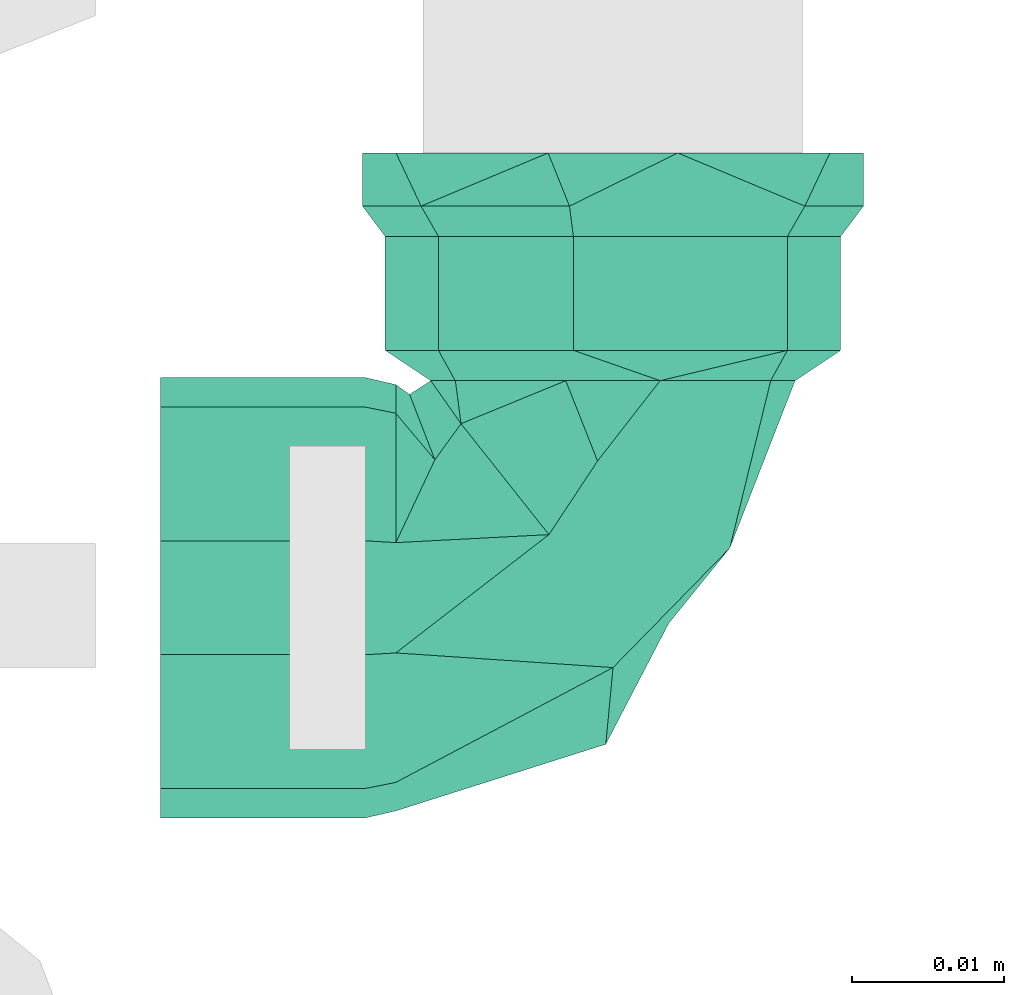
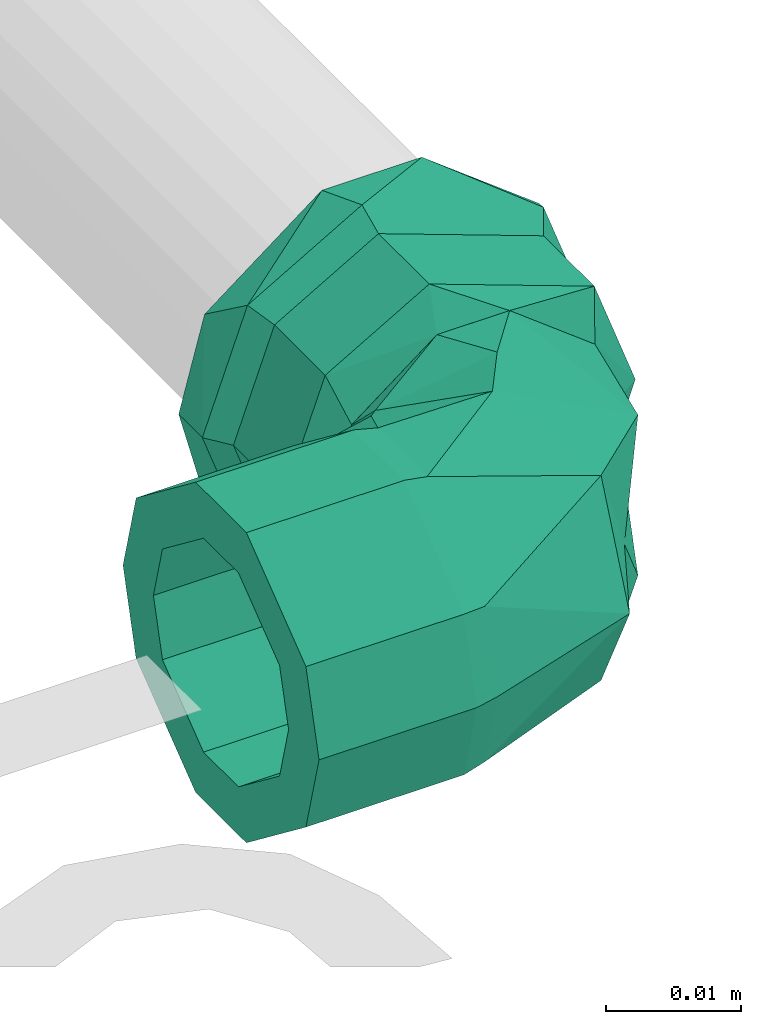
# One storey, part 374 of 589: 1 flow fitting.
"""IFC2X3 building model written with IfcOpenShell, lengths in millimetres."""

from ifc_helpers import new_model, entity, si_unit, converted_unit, derived_unit, direction, frame, origin, place, context, subcontext, project, spatial, faceted_brep, source, transform, mapped, material, type_object, type_shapes, element, save


model = new_model("IFC2X3")

# Units and contexts
model_context = context("Model", 3, precision=0.01, world=origin(), true_north=direction((6.123031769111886e-17, 1.0)))
body_context = subcontext(model_context, "Body", "Model", "MODEL_VIEW")
ifc_project = project(units=[si_unit("LENGTHUNIT", "METRE", prefix="MILLI"), si_unit("AREAUNIT", "SQUARE_METRE"), si_unit("VOLUMEUNIT", "CUBIC_METRE"), converted_unit("PLANEANGLEUNIT", "DEGREE", entity("IfcRatioMeasure", 0.017453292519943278), si_unit("PLANEANGLEUNIT", "RADIAN"), dimensions=[0, 0, 0, 0, 0, 0, 0]), si_unit("MASSUNIT", "GRAM", prefix="KILO"), derived_unit("MASSDENSITYUNIT", [(si_unit("MASSUNIT", "GRAM", prefix="KILO"), 1), (si_unit("LENGTHUNIT", "METRE"), -3)]), derived_unit("IONCONCENTRATIONUNIT", [(si_unit("MASSUNIT", "GRAM", prefix="KILO"), 1), (si_unit("LENGTHUNIT", "METRE"), -3)]), derived_unit("MOMENTOFINERTIAUNIT", [(si_unit("LENGTHUNIT", "METRE"), 4)]), si_unit("TIMEUNIT", "SECOND"), si_unit("FREQUENCYUNIT", "HERTZ"), si_unit("THERMODYNAMICTEMPERATUREUNIT", "DEGREE_CELSIUS"), derived_unit("THERMALTRANSMITTANCEUNIT", [(si_unit("MASSUNIT", "GRAM", prefix="KILO"), 1), (si_unit("THERMODYNAMICTEMPERATUREUNIT", "KELVIN"), -1), (si_unit("TIMEUNIT", "SECOND"), -3)]), derived_unit("THERMALCONDUCTANCEUNIT", [(si_unit("MASSUNIT", "GRAM", prefix="KILO"), 1), (si_unit("THERMODYNAMICTEMPERATUREUNIT", "KELVIN"), -1), (si_unit("TIMEUNIT", "SECOND"), -3), (si_unit("LENGTHUNIT", "METRE"), 1)]), derived_unit("VOLUMETRICFLOWRATEUNIT", [(si_unit("LENGTHUNIT", "METRE"), 3), (si_unit("TIMEUNIT", "SECOND"), -1)]), derived_unit("MASSFLOWRATEUNIT", [(si_unit("MASSUNIT", "GRAM", prefix="KILO"), 1), (si_unit("TIMEUNIT", "SECOND"), -1)]), derived_unit("ROTATIONALFREQUENCYUNIT", [(si_unit("TIMEUNIT", "SECOND"), -1)]), si_unit("ELECTRICCURRENTUNIT", "AMPERE"), si_unit("ELECTRICVOLTAGEUNIT", "VOLT"), si_unit("POWERUNIT", "WATT"), si_unit("FORCEUNIT", "NEWTON", prefix="KILO"), si_unit("ILLUMINANCEUNIT", "LUX"), si_unit("LUMINOUSFLUXUNIT", "LUMEN"), si_unit("LUMINOUSINTENSITYUNIT", "CANDELA"), derived_unit("USERDEFINED", [(si_unit("MASSUNIT", "GRAM", prefix="KILO"), -1), (si_unit("LENGTHUNIT", "METRE"), -2), (si_unit("TIMEUNIT", "SECOND"), 3), (si_unit("LUMINOUSFLUXUNIT", "LUMEN"), 1)]), derived_unit("USERDEFINED", [(si_unit("MASSUNIT", "GRAM", prefix="KILO"), 1), (si_unit("TIMEUNIT", "SECOND"), -3), (si_unit("LENGTHUNIT", "METRE"), 3), (si_unit("ELECTRICCURRENTUNIT", "AMPERE"), -2)]), derived_unit("SOUNDPOWERUNIT", [(si_unit("MASSUNIT", "GRAM", prefix="KILO"), 1), (si_unit("TIMEUNIT", "SECOND"), -3), (si_unit("LENGTHUNIT", "METRE"), 2)]), derived_unit("SOUNDPRESSUREUNIT", [(si_unit("MASSUNIT", "GRAM", prefix="KILO"), 1), (si_unit("LENGTHUNIT", "METRE"), -1), (si_unit("TIMEUNIT", "SECOND"), -2)]), derived_unit("LINEARVELOCITYUNIT", [(si_unit("LENGTHUNIT", "METRE"), 1), (si_unit("TIMEUNIT", "SECOND"), -1)]), si_unit("PRESSUREUNIT", "PASCAL"), derived_unit("USERDEFINED", [(si_unit("MASSUNIT", "GRAM", prefix="KILO"), 1), (si_unit("LENGTHUNIT", "METRE"), -2), (si_unit("TIMEUNIT", "SECOND"), -2)]), derived_unit("LINEARFORCEUNIT", [(si_unit("MASSUNIT", "GRAM", prefix="KILO"), 1), (si_unit("TIMEUNIT", "SECOND"), -2)]), derived_unit("PLANARFORCEUNIT", [(si_unit("MASSUNIT", "GRAM", prefix="KILO"), 1), (si_unit("LENGTHUNIT", "METRE"), -1), (si_unit("TIMEUNIT", "SECOND"), -2)]), derived_unit("SPECIFICHEATCAPACITYUNIT", [(si_unit("THERMODYNAMICTEMPERATUREUNIT", "KELVIN"), -1), (si_unit("LENGTHUNIT", "METRE"), 2), (si_unit("TIMEUNIT", "SECOND"), -2)]), derived_unit("HEATINGVALUEUNIT", [(si_unit("LENGTHUNIT", "METRE"), 2), (si_unit("TIMEUNIT", "SECOND"), -2)]), derived_unit("VAPORPERMEABILITYUNIT", [(si_unit("LENGTHUNIT", "METRE"), -1), (si_unit("TIMEUNIT", "SECOND"), 1)]), derived_unit("DYNAMICVISCOSITYUNIT", [(si_unit("MASSUNIT", "GRAM", prefix="KILO"), 1), (si_unit("TIMEUNIT", "SECOND"), -1), (si_unit("LENGTHUNIT", "METRE"), -1)]), derived_unit("THERMALEXPANSIONCOEFFICIENTUNIT", [(si_unit("THERMODYNAMICTEMPERATUREUNIT", "KELVIN"), -1)]), derived_unit("MODULUSOFELASTICITYUNIT", [(si_unit("MASSUNIT", "GRAM", prefix="KILO"), 1), (si_unit("LENGTHUNIT", "METRE"), -1), (si_unit("TIMEUNIT", "SECOND"), -2)]), derived_unit("ISOTHERMALMOISTURECAPACITYUNIT", [(si_unit("LENGTHUNIT", "METRE"), 3), (si_unit("MASSUNIT", "GRAM", prefix="KILO"), -1)]), derived_unit("MOISTUREDIFFUSIVITYUNIT", [(si_unit("TIMEUNIT", "SECOND"), -1), (si_unit("LENGTHUNIT", "METRE"), 2)])], contexts=[model_context])

# Site, building, storey
site_placement = place(None, origin())
site = spatial("IfcSite", under=ifc_project, at=site_placement, Name="Default", CompositionType="ELEMENT")
building_placement = place(site_placement, origin())
building = spatial("IfcBuilding", under=site, at=building_placement, CompositionType="ELEMENT")
storey_placement = place(building_placement, frame((0.0, 0.0, 100.0)))
storey = spatial("IfcBuildingStorey", under=building, at=storey_placement, Name="TÉRREO", CompositionType="ELEMENT", Elevation=100.0)

# Flow fitting
ifc_material = material(Name="PVC Azul")
pipe_fitting_type = type_object("IfcPipeFittingType", Name="PVC Marrom Soldável_Joelho 90° Azul com Bucha de Latão_Rodrigo MEP:Joelho_20x1/2''_ 25x1/2''_ 25x3/4'' _ 32x3/4''", PredefinedType="NOTDEFINED", material=ifc_material)
shared_shape = source(origin(), body_context, "Body", "Brep", [
    faceted_brep([(-16.299999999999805, 2.5881904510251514, -9.659258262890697), (-16.299999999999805, -2.588190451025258, -9.659258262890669), (-16.299999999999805, -3.7528761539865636, -14.005924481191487), (-16.299999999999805, 3.7528761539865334, -14.005924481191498), (-16.299999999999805, 8.660254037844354, -5.0), (-16.299999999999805, -12.557368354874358, -7.249999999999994), (-16.299999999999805, -8.660254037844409, -5.0), (-16.299999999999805, -10.0, 0.0), (-16.299999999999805, -14.499999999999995, 0.0), (-16.299999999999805, -8.660254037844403, 5.0), (-16.299999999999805, -12.557368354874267, 7.250000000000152), (-16.299999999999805, -2.5881904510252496, 9.659258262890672), (-16.299999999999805, -3.752876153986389, 14.005924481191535), (-16.299999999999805, 2.5881904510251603, 9.659258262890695), (-16.299999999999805, 3.752876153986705, 14.005924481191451), (-16.299999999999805, 8.660254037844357, 5.0), (-16.299999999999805, 12.557368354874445, 7.2499999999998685), (-16.299999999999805, 14.500000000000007, 0.0), (-16.299999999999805, 10.0, 0.0), (-16.299999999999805, 12.557368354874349, -7.250000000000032), (-23.799999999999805, 14.500000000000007, 0.0), (-25.7999999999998, 14.500000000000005, 0.0), (-29.7999999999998, 14.500000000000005, 0.0), (-29.7999999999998, 12.557368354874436, 7.24999999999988), (-25.7999999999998, 12.557368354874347, 7.250000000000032), (-23.799999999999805, 12.557368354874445, 7.2499999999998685), (-29.7999999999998, 3.7528761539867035, 14.005924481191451), (-25.7999999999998, 3.7528761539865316, 14.005924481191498), (-23.799999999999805, 3.752876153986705, 14.005924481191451), (-29.7999999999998, -3.75287615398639, 14.005924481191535), (-25.7999999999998, -3.752876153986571, 14.005924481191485), (-23.799999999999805, -3.752876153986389, 14.005924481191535), (-29.7999999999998, -12.557368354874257, 7.250000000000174), (-25.7999999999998, -12.557368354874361, 7.24999999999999), (-23.799999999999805, -12.557368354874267, 7.250000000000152), (-29.7999999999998, -14.499999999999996, 0.0), (-25.7999999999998, -14.499999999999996, 0.0), (-23.799999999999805, -14.499999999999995, 0.0), (-29.7999999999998, -12.557368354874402, -7.249999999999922), (-25.7999999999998, -12.557368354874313, -7.250000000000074), (-23.799999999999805, -12.557368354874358, -7.249999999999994), (-29.7999999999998, -3.752876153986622, -14.005924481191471), (-25.7999999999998, -3.752876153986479, -14.00592448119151), (-23.799999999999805, -3.7528761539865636, -14.005924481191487), (-29.7999999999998, 3.752876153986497, -14.005924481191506), (-25.7999999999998, 3.7528761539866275, -14.005924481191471), (-23.799999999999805, 3.7528761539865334, -14.005924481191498), (-29.7999999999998, 12.557368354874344, -7.250000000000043), (-25.7999999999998, 12.55736835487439, -7.249999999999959), (-23.799999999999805, 12.557368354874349, -7.250000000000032), (-29.7999999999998, -10.0, 0.0), (-29.7999999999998, -8.660254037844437, 5.0), (-29.7999999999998, -2.5881904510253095, 9.659258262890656), (-29.7999999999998, 2.5881904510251, 9.659258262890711), (-29.7999999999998, 8.660254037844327, 5.0), (-29.79999999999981, 10.0, 0.0), (-29.7999999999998, 8.660254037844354, -5.0), (-29.7999999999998, 2.588190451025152, -9.659258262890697), (-29.7999999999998, -2.588190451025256, -9.659258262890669), (-29.7999999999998, -8.66025403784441, -5.0)], [[[0, 1, 2]], [[2, 3, 0]], [[4, 0, 3]], [[5, 2, 1]], [[1, 6, 5]], [[6, 7, 5]], [[8, 5, 7]], [[8, 7, 9]], [[10, 8, 9]], [[9, 11, 10]], [[11, 12, 10]], [[13, 12, 11]], [[12, 13, 14]], [[13, 15, 14]], [[16, 14, 15]], [[16, 15, 17]], [[17, 15, 18]], [[18, 4, 19]], [[17, 18, 19]], [[3, 19, 4]], [[17, 20, 21, 22, 23, 24, 25, 16]], [[16, 25, 24, 23, 26, 27, 28, 14]], [[28, 27, 26, 29, 30, 31, 12, 14]], [[12, 31, 30, 29, 32, 33, 34, 10]], [[10, 34, 33, 32, 35, 36, 37, 8]], [[8, 37, 36, 35, 38, 39, 40, 5]], [[5, 40, 39, 38, 41, 42, 43, 2]], [[43, 42, 41, 44, 45, 46, 3, 2]], [[3, 46, 45, 44, 47, 48, 49, 19]], [[19, 49, 48, 47, 22, 21, 20, 17]], [[9, 7, 50, 51]], [[11, 9, 51, 52]], [[52, 53, 13, 11]], [[15, 13, 53, 54]], [[18, 15, 54, 55]], [[4, 18, 55, 56]], [[0, 4, 56, 57]], [[57, 58, 1, 0]], [[6, 1, 58, 59]], [[7, 6, 59, 50]], [[41, 58, 57]], [[58, 41, 38]], [[57, 44, 41]], [[38, 59, 58]], [[38, 50, 59]], [[50, 38, 35]], [[51, 50, 35]], [[51, 35, 32]], [[32, 52, 51]], [[32, 29, 52]], [[52, 29, 53]], [[26, 53, 29]], [[26, 54, 53]], [[54, 26, 23]], [[22, 54, 23]], [[55, 54, 22]], [[47, 55, 22]], [[47, 56, 55]], [[56, 47, 44]], [[44, 57, 56]]]),
    faceted_brep([(-16.299999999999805, -12.557368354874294, -7.250000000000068), (-16.299999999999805, -14.499999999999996, 0.0), (-16.299999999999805, -12.55736835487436, 7.249999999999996), (-16.299999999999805, -3.752876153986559, 14.005924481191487), (-16.299999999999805, 3.752876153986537, 14.005924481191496), (-16.299999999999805, 12.557368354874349, 7.250000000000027), (-16.299999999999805, 14.500000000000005, 0.0), (-16.299999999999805, 12.557368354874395, -7.249999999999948), (-16.299999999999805, 3.75287615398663, -14.005924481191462), (-16.299999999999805, -3.7528761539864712, -14.005924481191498), (-14.299999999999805, 3.6338193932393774, 13.56159860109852), (-14.299999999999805, -3.633819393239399, 13.561598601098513), (-14.299999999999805, -12.158996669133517, 7.019999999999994), (-14.299999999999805, -14.039999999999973, 0.0), (-14.299999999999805, -12.158996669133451, -7.020000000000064), (-14.299999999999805, -3.6338193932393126, -13.561598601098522), (-14.299999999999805, 3.633819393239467, -13.561598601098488), (-14.299999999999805, 12.158996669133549, -7.01999999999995), (-14.299999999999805, 14.040000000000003, 0.0), (-14.299999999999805, 12.158996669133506, 7.020000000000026)], [[[0, 1, 2, 3, 4, 5, 6, 7, 8, 9]], [[10, 11, 12, 13, 14, 15, 16, 17, 18, 19]], [[7, 6, 18, 17]], [[8, 7, 17, 16]], [[16, 15, 9, 8]], [[0, 9, 15, 14]], [[1, 0, 14, 13]], [[2, 1, 13, 12]], [[3, 2, 12, 11]], [[11, 10, 4, 3]], [[5, 4, 10, 19]], [[6, 5, 19, 18]]]),
    faceted_brep([(-3.1058285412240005, 14.30000000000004, 11.591109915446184), (-10.392304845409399, 14.30000000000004, 6.0), (-12.0, 14.30000000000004, 0.0), (-10.392304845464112, 14.30000000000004, -6.0), (-3.105828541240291, 14.30000000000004, -11.591109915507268), (3.1058285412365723, 14.30000000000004, -11.591109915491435), (10.392304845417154, 14.30000000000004, -6.0), (12.0, 14.30000000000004, 0.0), (10.392304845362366, 14.30000000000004, 6.0), (3.105828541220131, 14.30000000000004, 11.59110991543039), (11.490129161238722, 16.29999999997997, -9.64245465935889), (15.0, 16.300000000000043, 0.0), (2.6030757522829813, 16.29999999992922, -14.772406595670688), (-15.0, 16.299999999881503, 0.0), (-11.492547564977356, 16.299999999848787, -9.639572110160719), (-11.4925475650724, 16.300000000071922, 9.639572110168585), (-2.606781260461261, 16.300000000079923, 14.771753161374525), (11.490129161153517, 16.300000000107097, 9.642454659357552), (15.0, 23.800000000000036, 0.0), (11.490129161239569, 23.800000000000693, 9.64245465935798), (-2.606781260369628, 23.800000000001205, 14.771753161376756), (-11.492547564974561, 23.800000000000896, 9.63957211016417), (-15.0, 23.800000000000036, 0.0), (-11.492547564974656, 23.79999999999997, -9.639572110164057), (2.603075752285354, 23.799999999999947, -14.772406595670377), (11.4901291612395, 23.799999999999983, -9.642454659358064), (-12.639142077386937, 25.800000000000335, 10.606700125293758), (-16.500000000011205, 25.800000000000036, 0.0), (-2.8633833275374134, 25.800000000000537, 16.249647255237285), (12.641802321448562, 25.800000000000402, 10.603529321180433), (16.499999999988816, 25.800000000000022, 0.0), (12.641802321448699, 25.800000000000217, -10.603529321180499), (2.867459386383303, 25.800000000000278, -16.24892847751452), (-12.639142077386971, 25.800000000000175, -10.606700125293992), (-4.270514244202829, 29.30000000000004, -15.937776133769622), (-3.235238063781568, 29.30000000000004, -12.074072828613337), (3.235238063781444, 29.30000000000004, -12.074072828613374), (-14.28941916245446, 29.30000000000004, -8.249999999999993), (4.27051424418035, 29.30000000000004, -15.937776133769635), (-10.825317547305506, 29.30000000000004, -6.249999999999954), (-12.499999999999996, 29.30000000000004, 0.0), (-16.500000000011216, 29.30000000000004, 0.0), (-10.825317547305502, 29.30000000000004, 6.249999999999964), (-14.289419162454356, 29.30000000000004, 8.250000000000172), (-3.2352380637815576, 29.30000000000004, 12.074072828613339), (-4.27051424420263, 29.30000000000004, 15.937776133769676), (3.235238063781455, 29.30000000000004, 12.07407282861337), (4.2705142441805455, 29.30000000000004, 15.937776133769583), (10.82531754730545, 29.30000000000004, 6.250000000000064), (14.289419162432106, 29.30000000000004, 8.249999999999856), (16.499999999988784, 29.30000000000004, 0.0), (12.500000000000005, 29.30000000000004, 0.0), (14.289419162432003, 29.30000000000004, -8.250000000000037), (10.825317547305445, 29.30000000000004, -6.250000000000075), (-10.825317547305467, 16.300000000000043, -6.2500000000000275), (-12.499999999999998, 16.300000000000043, 0.0), (-10.825317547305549, 16.300000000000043, 6.249999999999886), (-3.2352380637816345, 16.30000000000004, 12.074072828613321), (3.2352380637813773, 16.30000000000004, 12.07407282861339), (10.825317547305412, 16.300000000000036, 6.250000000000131), (12.500000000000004, 16.300000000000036, 0.0), (10.82531754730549, 16.300000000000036, -6.249999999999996), (3.235238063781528, 16.30000000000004, -12.07407282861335), (-3.2352380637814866, 16.30000000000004, -12.07407282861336)], [[[0, 1, 2, 3, 4, 5, 6, 7, 8, 9]], [[6, 5, 10]], [[7, 6, 11]], [[11, 6, 10]], [[5, 12, 10]], [[3, 2, 13]], [[4, 3, 14]], [[4, 14, 12]], [[14, 3, 13]], [[4, 12, 5]], [[1, 0, 15]], [[2, 1, 13]], [[13, 1, 15]], [[0, 16, 15]], [[8, 7, 11]], [[9, 8, 17]], [[9, 17, 16]], [[17, 8, 11]], [[9, 16, 0]], [[18, 19, 17, 11]], [[17, 19, 20, 16]], [[21, 22, 13, 15]], [[21, 15, 16, 20]], [[22, 23, 14, 13]], [[14, 23, 24, 12]], [[25, 18, 11, 10]], [[25, 10, 12, 24]], [[21, 20, 26]], [[22, 21, 27]], [[27, 21, 26]], [[20, 28, 26]], [[19, 18, 29]], [[29, 28, 19]], [[30, 29, 18]], [[19, 28, 20]], [[18, 25, 31]], [[31, 30, 18]], [[32, 31, 25]], [[25, 24, 32]], [[23, 22, 27]], [[23, 33, 24]], [[33, 23, 27]], [[24, 33, 32]], [[34, 35, 36]], [[35, 34, 37]], [[36, 38, 34]], [[37, 39, 35]], [[37, 40, 39]], [[40, 37, 41]], [[42, 40, 41]], [[42, 41, 43]], [[43, 44, 42]], [[43, 45, 44]], [[44, 45, 46]], [[47, 46, 45]], [[47, 48, 46]], [[48, 47, 49]], [[50, 48, 49]], [[51, 48, 50]], [[52, 51, 50]], [[52, 53, 51]], [[53, 52, 38]], [[38, 36, 53]], [[50, 49, 30]], [[49, 29, 30]], [[29, 49, 47]], [[29, 47, 28]], [[26, 45, 43]], [[27, 43, 41]], [[45, 26, 28]], [[26, 43, 27]], [[45, 28, 47]], [[41, 37, 27]], [[37, 33, 27]], [[33, 37, 34]], [[33, 34, 32]], [[31, 38, 52]], [[30, 52, 50]], [[38, 31, 32]], [[31, 52, 30]], [[38, 32, 34]], [[54, 55, 56, 57, 58, 59, 60, 61, 62, 63]], [[56, 55, 40, 42]], [[57, 56, 42, 44]], [[44, 46, 58, 57]], [[59, 58, 46, 48]], [[60, 59, 48, 51]], [[61, 60, 51, 53]], [[62, 61, 53, 36]], [[36, 35, 63, 62]], [[54, 63, 35, 39]], [[55, 54, 39, 40]]]),
    faceted_brep([(3.1056480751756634, 14.299999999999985, 11.590538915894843), (10.391809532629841, 14.299999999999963, 5.999601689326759), (12.0, 14.299999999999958, 0.0), (10.39180953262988, 14.299999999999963, -5.999601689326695), (3.1056480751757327, 14.299999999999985, -11.590538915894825), (-3.10520360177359, 14.300000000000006, -11.590281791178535), (-10.38010506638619, 14.300000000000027, -5.994904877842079), (-12.0, 14.300000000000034, 0.0), (-10.380105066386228, 14.300000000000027, 5.994904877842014), (-3.1052036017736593, 14.300000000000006, 11.590281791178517), (-14.299999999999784, 3.633088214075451, 13.560629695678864), (-14.299999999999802, 12.144722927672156, 7.014038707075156), (-14.299999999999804, 14.040000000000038, 0.0), (-14.299999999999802, 12.144722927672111, -7.0140387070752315), (-14.299999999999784, 3.63308821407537, -13.560629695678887), (-14.299999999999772, -3.633608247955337, -13.560930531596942), (-14.299999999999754, -12.158417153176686, -7.019533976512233), (-14.299999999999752, -14.039999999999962, 0.0), (-14.299999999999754, -12.158417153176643, 7.019533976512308), (-14.299999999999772, -3.6336082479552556, 13.560930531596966), (-0.47130784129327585, -9.652655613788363, 0.0), (-13.394903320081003, 13.394903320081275, 0.0), (-11.731981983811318, 9.090980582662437, -10.425762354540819), (7.7003635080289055, 3.2782377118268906, -7.250992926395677), (-4.216463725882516, 4.16036367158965, -13.02360333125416), (0.005590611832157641, -4.597653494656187, -9.261535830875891), (-1.015336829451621, 9.007807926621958, -12.492335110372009), (-10.008512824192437, 11.46627786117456, -8.88261575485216), (3.673289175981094, -1.6924555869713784, 0.0), (-4.216465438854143, 4.1603653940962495, 13.02360333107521), (-11.731981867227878, 9.090980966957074, 10.425762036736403), (-10.008512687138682, 11.466278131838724, 8.882615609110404), (7.700363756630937, 3.278237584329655, 7.250992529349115), (0.00558956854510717, -4.597653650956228, 9.26153641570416), (-1.0153385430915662, 9.00780860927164, 12.492335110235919)], [[[0, 1, 2, 3, 4, 5, 6, 7, 8, 9]], [[10, 11, 12, 13, 14, 15, 16, 17, 18, 19]], [[20, 17, 16]], [[21, 22, 13]], [[4, 3, 23]], [[15, 24, 25]], [[26, 24, 27]], [[25, 23, 28]], [[15, 25, 16]], [[28, 20, 25]], [[23, 24, 26]], [[24, 14, 22]], [[26, 4, 23]], [[24, 22, 27]], [[14, 13, 22]], [[20, 16, 25]], [[13, 12, 21]], [[27, 22, 21]], [[2, 28, 23]], [[27, 5, 26]], [[27, 21, 7]], [[7, 6, 27]], [[27, 6, 5]], [[15, 14, 24]], [[2, 23, 3]], [[5, 4, 26]], [[23, 25, 24]], [[21, 12, 11]], [[29, 30, 10]], [[31, 9, 8]], [[29, 31, 30]], [[32, 29, 33]], [[21, 31, 7]], [[18, 20, 33]], [[31, 29, 34]], [[11, 10, 30]], [[31, 34, 9]], [[7, 31, 8]], [[21, 30, 31]], [[19, 18, 33]], [[32, 33, 28]], [[18, 17, 20]], [[20, 28, 33]], [[32, 34, 29]], [[19, 33, 29]], [[30, 21, 11]], [[34, 32, 0]], [[32, 2, 1]], [[10, 19, 29]], [[32, 1, 0]], [[0, 9, 34]], [[2, 32, 28]]]),
])
type_shapes(pipe_fitting_type, [shared_shape])
flow_fitting_placement = place(storey_placement, frame((-2746.8982659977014, 747.3181290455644, 600.0)))
element("IfcFlowFitting", 1, at=flow_fitting_placement, inside=storey, type_object=pipe_fitting_type, material=ifc_material, Name="PVC Marrom Soldável_Joelho 90° Azul com Bucha de Latão_Rodrigo MEP:Joelho_20x1/2''_ 25x1/2''_ 25x3/4'' _ 32x3/4''", ObjectType="PVC Marrom Soldável_Joelho 90° Azul com Bucha de Latão_Rodrigo MEP:Joelho_20x1/2''_ 25x1/2''_ 25x3/4'' _ 32x3/4''", context=body_context, shape_type="MappedRepresentation", body=[
    mapped(shared_shape, transform((0.0, 0.0, 0.0), scale=1.0)),
])

save(model, "model.ifc")
